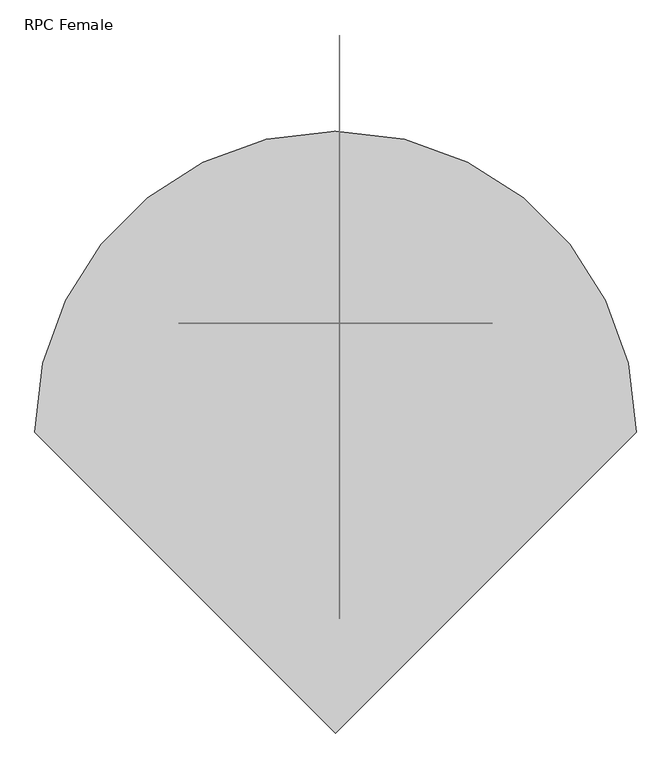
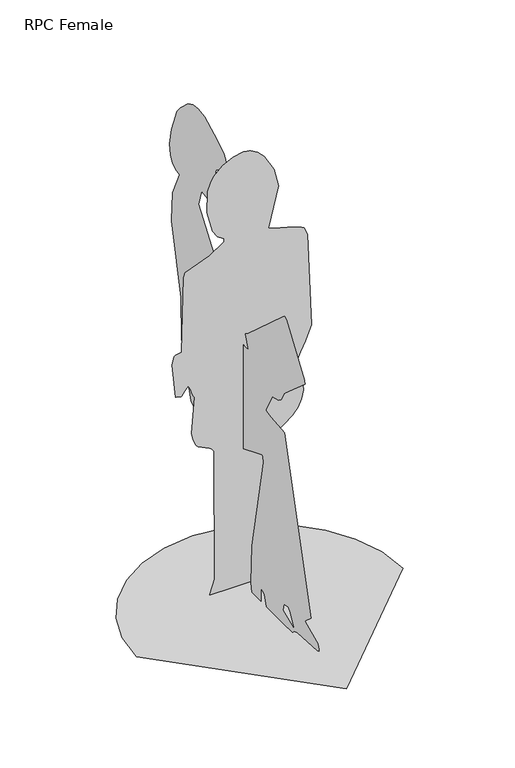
"""IFC4 building model written with IfcOpenShell, lengths in millimetres: proxy geometry, RPC Female : Cynthia."""

from ifc_helpers import new_model, si_unit, origin, place, context, project, spatial, triangles, source, transform, mapped, element, save


def rpc_female_d179ddfe(model_context):
    return source(origin(), model_context, "Body", "Tessellation", [
        triangles([(441.0115623, 0.000195, 2.95e-05), (429.3526445, 101.0508632, 2.95e-05), (396.1482396, 193.849741, 2.95e-05), (344.0569788, 275.7380203, 2.95e-05), (275.7379839, 344.0571605, 2.95e-05), (193.8496139, 396.1483123, 2.95e-05), (101.0507451, 429.3527172, 2.95e-05), (0.0001128, 441.0116713, 2.95e-05), (-101.0505544, 429.3527535, 2.95e-05), (-193.8494322, 396.1483486, 2.95e-05), (-275.7377296, 344.0570878, 2.95e-05), (-344.0569061, 275.7380929, 2.95e-05), (-396.1479853, 193.8497047, 2.95e-05), (-429.3523902, 101.050836, 2.95e-05), (-441.0113442, 0.0002072, 2.95e-05), (0.0001438, -441.0112716, 2.95e-05), (5.6288573, -72.8588658, 70.0852479), (5.6288585, -67.5989352, 46.4156806), (5.6288573, -125.4578945, 20.116164), (5.6288573, -130.7177933, 25.3760469), (5.6288568, -108.5117995, 62.754241), (5.6288568, -96.5284376, 75.3451376), (5.6288636, 28.8463088, 4.4e-06), (5.628863, 40.229117, 35.8958695), (5.628863, 42.8589028, 37.582617), (5.6288625, 46.0255291, 39.5148301), (5.628863, 49.4069043, 41.5083494), (5.628863, 52.681005, 43.379338), (5.628863, 55.5256942, 44.9433777), (5.628863, 57.6189757, 46.0169087), (5.628863, 58.6387445, 46.4156806), (5.6288642, 58.6388263, 5.3e-06), (5.6288664, 109.8768961, 6.9e-06), (5.6288659, 117.5638814, 30.074729), (5.6288619, 110.2503017, 165.0034458), (5.6288488, 45.8425734, 492.8872839), (5.6288488, 48.1189788, 514.5472627), (5.6288494, 53.3788639, 517.1771167), (5.6288551, 178.1910311, 465.0429079), (5.6288653, 434.6626039, 445.192448), (5.6288659, 450.5017533, 448.7984053), (5.6288659, 460.0242462, 459.6877842), (5.6288619, 516.0170857, 641.4428238), (5.6288585, 518.8805011, 782.802364), (5.6288539, 571.5700902, 1021.0322994), (5.6288505, 566.2196537, 1122.0662487), (5.6288454, 526.7703175, 1208.8547012), (5.6288471, 549.3823457, 1214.8042654), (5.6288466, 565.9655994, 1225.2771), (5.6288471, 578.7778261, 1246.7330578), (5.628846, 582.3522446, 1283.6603096), (5.6288443, 571.2219646, 1340.5466629), (5.6288403, 539.9200962, 1421.8807972), (5.6288392, 521.1666261, 1445.9131966), (5.6288358, 476.5802487, 1486.813607), (5.6288341, 449.7626269, 1499.3802818), (5.6288341, 419.2722642, 1503.8241966), (5.6288318, 384.6166397, 1497.9940292), (5.6288307, 310.7213682, 1462.4588436), (5.6288295, 273.9932685, 1438.4605991), (5.6288295, 262.185559, 1422.5043056), (5.6288307, 258.6746541, 1403.1431328), (5.6288312, 266.4050325, 1379.8015343), (5.6288312, 272.8454643, 1373.0538357), (5.6288335, 310.0952073, 1357.3786297), (5.6288335, 316.3479143, 1352.4606159), (5.6288335, 319.0040385, 1345.6120514), (5.6288346, 317.1758071, 1332.7887062), (5.6288352, 305.8543688, 1300.9030071), (5.6288352, 306.5085803, 1292.1762142), (5.6288386, 347.7776456, 1237.8580181), (5.6288397, 353.1934851, 1227.2643333), (5.6288397, 357.0101126, 1223.4171844), (5.6288403, 363.9689901, 1222.0999683), (5.6288409, 400.5326377, 1227.2643333), (5.6288426, 416.3123068, 1172.0352917), (5.6288431, 303.2702605, 1016.0021559), (5.6288449, 265.1504035, 911.3597786), (5.6288466, 263.775124, 856.4411104), (5.6288431, 152.5272633, 835.1194468), (5.628842, 132.2774819, 835.4014063), (5.628842, 148.1584529, 880.886566), (5.628842, 148.0571964, 882.7405226), (5.6288414, 137.6855275, 888.0610554), (5.6288278, -66.8523783, 1071.7675747), (5.6288273, -73.5721717, 1077.1683352), (5.6288273, -86.0403332, 1072.7861898), (5.6288278, -188.4956529, 924.5040344), (5.6288278, -191.2067156, 911.6699341), (5.6288358, -75.4888061, 809.1019215), (5.6288375, -53.9765018, 775.0415005), (5.628838, -41.2994186, 764.3927319), (5.6288397, -7.1097666, 756.5028791), (5.6288431, 31.0002676, 687.1163441), (5.6288431, 32.3392324, 682.8642054), (5.628842, 2.8209363, 678.8459913), (5.6288397, -75.4888061, 672.3442806), (5.6288505, -225.3960531, 114.7944466), (5.6288528, -193.9320943, 87.1596054), (5.6288528, -191.2067156, 83.2349994), (5.6288511, -259.585536, 54.305547), (5.6288511, -263.2692319, 51.0626081), (5.6288511, -269.2554763, 42.3128833), (5.6288517, -272.6934205, 33.4609913), (5.6288517, -273.1918821, 30.0901555), (5.6288517, -272.7351876, 28.0059872), (5.6288522, -264.4336594, 24.8814686), (5.6288562, -149.6562358, 17.8736649), (5.6288573, -130.7177933, 12.2262931), (5.6288579, -120.238046, 0.0), (104.0908666, 160.2089347, 3.1649078), (94.3579033, 160.2089347, 19.4060443), (89.3722792, 160.2089347, 24.6666948), (83.6749889, 160.2089347, 28.6502543), (77.3615207, 160.2089347, 30.6359162), (108.9209588, 160.208971, 488.2475235), (167.9289758, 160.208971, 532.4711323), (185.1884238, 160.2089529, 554.3915603), (197.8182488, 160.2089529, 580.1067784), (203.7634891, 160.2089529, 609.7401077), (200.9693101, 160.2089529, 643.4147238), (182.2653464, 160.2089529, 694.762825), (181.0317008, 160.2089529, 706.1069727), (182.5596416, 160.2089529, 717.0533976), (187.6063721, 160.2089529, 730.9447008), (194.3765257, 160.2089529, 745.9817917), (210.3236083, 160.2089529, 778.2543858), (229.8987579, 160.2089529, 827.5114082), (217.4196868, 160.2089892, 1149.376791), (206.2291816, 160.2089892, 1174.665073), (197.3626625, 160.2089892, 1180.1407562), (179.9116746, 160.2089892, 1186.5602772), (157.4188615, 160.2090074, 1193.4647249), (133.4268031, 160.2090074, 1200.3942438), (111.4781428, 160.2090074, 1206.8904316), (95.1154334, 160.2090074, 1212.4936506), (87.8813364, 160.2090074, 1216.7443359), (122.0707194, 160.2090074, 1350.8719048), (106.8578307, 160.2090255, 1414.3610527), (72.8125705, 160.2090255, 1471.759584), (51.5733646, 160.2090255, 1493.1550804), (29.0406942, 160.2090255, 1507.0042351), (6.3528093, 160.2090255, 1511.2990311), (-28.6189517, 160.2090255, 1503.9375618), (-63.4776388, 160.2090255, 1485.8244232), (-92.9896819, 160.2090255, 1457.7803501), (-104.1052189, 160.2090255, 1440.290284), (-113.0716229, 160.2090255, 1412.8615803), (-115.1812325, 160.2090074, 1340.4901257), (-96.9761937, 160.2090074, 1269.5770123), (-80.5492803, 160.2090074, 1243.9710171), (-59.3960202, 160.2090074, 1229.8941147), (-59.3960202, 160.2090074, 1219.3742626), (-106.3336258, 160.2090074, 1187.1321173), (-188.2636903, 160.2090255, 1156.2552956), (-192.5278195, 160.2090255, 1139.830426), (-199.1336482, 160.2090074, 881.9723282), (-218.9549129, 160.2090074, 877.9899405), (-221.2948136, 160.2090074, 876.8948765), (-223.2305058, 160.2090074, 874.3328962), (-229.8985581, 160.2089892, 846.8826822), (-219.8231193, 160.2089892, 732.8331757), (-218.615544, 160.2089892, 731.6850626), (-200.1001226, 160.2089892, 727.4659161), (-198.7834878, 160.2089892, 727.5732496), (-189.8889181, 160.2089892, 742.3224947), (-177.7438745, 160.2089892, 756.5027338), (-174.0054945, 160.2089892, 750.6861557), (-170.8934751, 160.208971, 743.8742895), (-168.1785245, 160.208971, 736.4751045), (-165.6313508, 160.208971, 728.8964973), (-163.0227891, 160.208971, 721.5463646), (-160.1235111, 160.208971, 714.8327482), (-156.7042431, 160.208971, 709.1635448), (-165.9934653, 160.208971, 587.3215633), (-161.082228, 160.208971, 562.7220474), (-151.4443625, 160.208971, 540.8466385), (-144.6676322, 160.208971, 533.0879914), (-106.327031, 160.208971, 513.8625661), (-97.6973615, 160.208971, 507.5200027), (-90.955422, 160.208971, 498.7673756), (-89.4974987, 160.2089347, 49.829067), (-106.3299469, 160.2089347, 7.46e-05), (105.2757234, 160.2089347, 7.46e-05)], [[15, 16, 1], [14, 15, 1], [14, 1, 2], [13, 14, 2], [13, 2, 3], [13, 3, 4], [12, 13, 4], [11, 12, 4], [11, 4, 5], [11, 5, 6], [11, 6, 7], [11, 7, 8], [11, 8, 9], [11, 9, 10], [23, 17, 18], [110, 23, 18], [110, 18, 19], [109, 110, 19], [17, 23, 24], [31, 32, 33], [31, 33, 34], [109, 19, 20], [108, 109, 20], [88, 89, 90], [82, 83, 84], [85, 86, 87], [105, 106, 107], [104, 105, 107], [103, 104, 107], [102, 103, 107], [101, 102, 107], [100, 101, 107], [100, 107, 108], [100, 108, 20], [100, 20, 21], [100, 21, 22], [87, 88, 90], [85, 87, 90], [84, 85, 90], [84, 90, 91], [84, 91, 92], [84, 92, 93], [82, 84, 93], [81, 82, 93], [81, 93, 94], [80, 81, 94], [80, 94, 95], [99, 100, 22], [17, 24, 25], [17, 25, 26], [31, 34, 35], [30, 31, 35], [17, 26, 27], [17, 27, 28], [17, 28, 29], [29, 30, 35], [17, 29, 35], [22, 17, 35], [99, 22, 35], [98, 99, 35], [97, 98, 35], [97, 35, 36], [97, 36, 37], [96, 97, 37], [96, 37, 38], [95, 96, 38], [80, 95, 38], [80, 38, 39], [79, 80, 39], [79, 39, 40], [79, 40, 41], [79, 41, 42], [79, 42, 43], [79, 43, 44], [78, 79, 44], [77, 78, 44], [77, 44, 45], [77, 45, 46], [76, 77, 46], [76, 46, 47], [75, 76, 47], [72, 73, 74], [71, 72, 74], [61, 62, 63], [60, 61, 63], [60, 63, 64], [59, 60, 64], [59, 64, 65], [59, 65, 66], [58, 59, 66], [57, 58, 66], [56, 57, 66], [55, 56, 66], [54, 55, 66], [54, 66, 67], [53, 54, 67], [52, 53, 67], [52, 67, 68], [51, 52, 68], [50, 51, 68], [49, 50, 68], [48, 49, 68], [47, 48, 68], [75, 47, 68], [74, 75, 68], [71, 74, 68], [70, 71, 68], [69, 70, 68], [183, 184, 111], [183, 111, 112], [183, 112, 113], [183, 113, 114], [183, 114, 115], [182, 183, 115], [181, 182, 115], [181, 115, 116], [154, 155, 156], [164, 165, 166], [180, 181, 116], [163, 164, 166], [162, 163, 166], [162, 166, 167], [161, 162, 167], [160, 161, 167], [159, 160, 167], [158, 159, 167], [157, 158, 167], [180, 116, 117], [180, 117, 118], [180, 118, 119], [180, 119, 120], [180, 120, 121], [180, 121, 122], [179, 180, 122], [179, 122, 123], [178, 179, 123], [177, 178, 123], [176, 177, 123], [175, 176, 123], [174, 175, 123], [174, 123, 124], [174, 124, 125], [173, 174, 125], [172, 173, 125], [171, 172, 125], [170, 171, 125], [169, 170, 125], [169, 125, 126], [168, 169, 126], [168, 126, 127], [167, 168, 127], [157, 167, 127], [157, 127, 128], [156, 157, 128], [154, 156, 128], [153, 154, 128], [153, 128, 129], [153, 129, 130], [153, 130, 131], [153, 131, 132], [153, 132, 133], [153, 133, 134], [153, 134, 135], [153, 135, 136], [153, 136, 137], [152, 153, 137], [151, 152, 137], [150, 151, 137], [149, 150, 137], [149, 137, 138], [149, 138, 139], [148, 149, 139], [147, 148, 139], [146, 147, 139], [146, 139, 140], [145, 146, 140], [145, 140, 141], [144, 145, 141], [144, 141, 142], [144, 142, 143]], closed=False),
    ])


if __name__ == "__main__":
    model = new_model("IFC4")
    model_context = context("Model", 3, world=origin())
    ifc_project = project(units=[si_unit("LENGTHUNIT", "METRE", prefix="MILLI")], contexts=[model_context])
    site = spatial("IfcSite", under=ifc_project)
    building = spatial("IfcBuilding", under=site)
    placement = place(None, origin())
    rpc_female_shape = rpc_female_d179ddfe(model_context)
    element("IfcBuildingElementProxy", 1, Name="RPC Female : Cynthia", ObjectType="RPC Female : Cynthia", at=placement, inside=building, context=model_context, shape_type="MappedRepresentation", body=[
        mapped(rpc_female_shape, transform((0.0, 0.0, 0.0), x_axis=(1.0, 0.0, 0.0), y_axis=(0.0, 1.0, 0.0), z_axis=(0.0, 0.0, 1.0))),
    ])
    save(model, "model.ifc")
